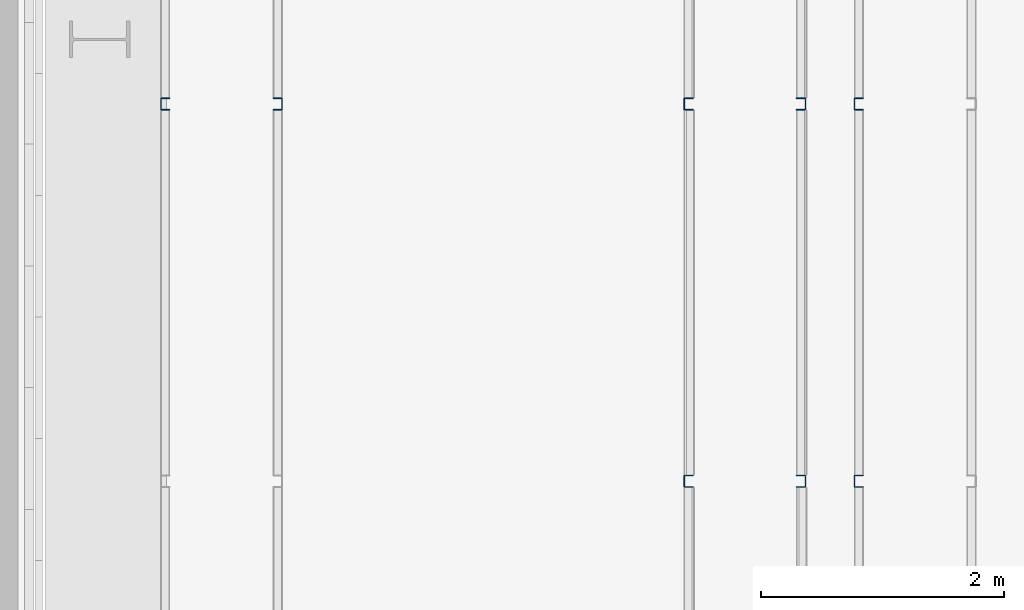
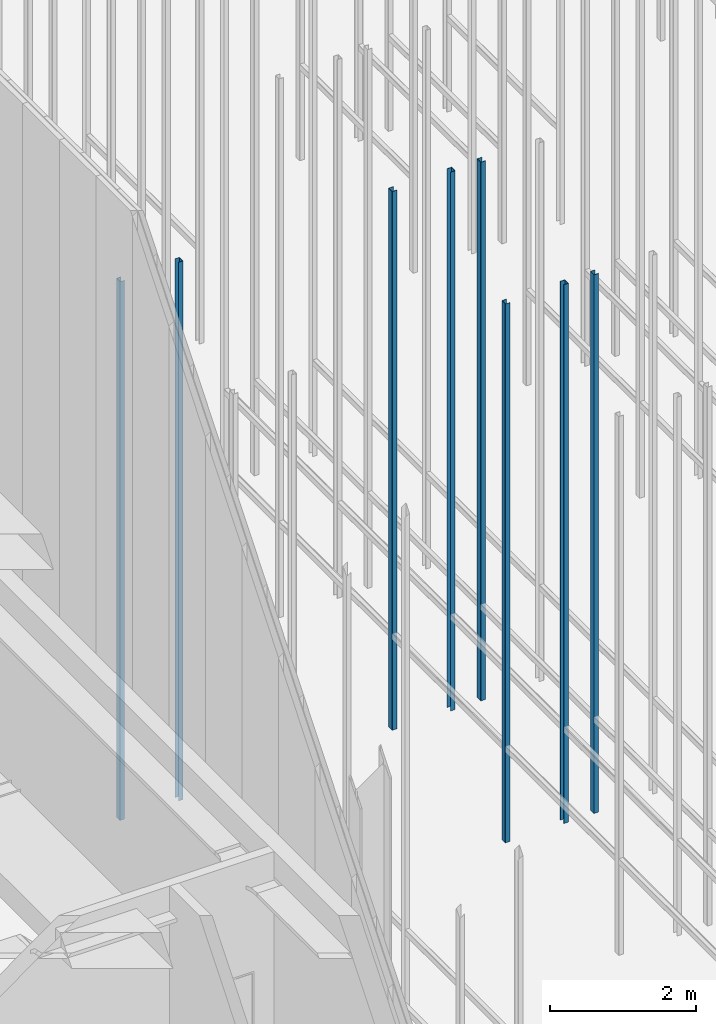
# One storey, part 18 of 302: 8 columns.
"""IFC2X3 building model written with IfcOpenShell, lengths in metres."""

from ifc_helpers import new_model, entity, si_unit, converted_unit, derived_unit, direction, frame, frame_2d, origin, place, context, subcontext, project, spatial, polyline, circle_curve, parameter, trimmed, segment, composite_curve, outline, extrude, source, transform, mapped, material, type_object, type_shapes, element, save


model = new_model("IFC2X3")

# Units and contexts
model_context = context("Model", 3, precision=1e-05, world=origin(), true_north=direction((6.12303176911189e-17, 1.0)))
body_context = subcontext(model_context, "Body", "Model", "MODEL_VIEW")
ifc_project = project(units=[si_unit("LENGTHUNIT", "METRE"), si_unit("AREAUNIT", "SQUARE_METRE"), si_unit("VOLUMEUNIT", "CUBIC_METRE"), converted_unit("PLANEANGLEUNIT", "DEGREE", entity("IfcRatioMeasure", 0.0174532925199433), si_unit("PLANEANGLEUNIT", "RADIAN"), dimensions=[0, 0, 0, 0, 0, 0, 0]), si_unit("MASSUNIT", "GRAM", prefix="KILO"), derived_unit("MASSDENSITYUNIT", [(si_unit("MASSUNIT", "GRAM", prefix="KILO"), 1), (si_unit("LENGTHUNIT", "METRE"), -3)]), derived_unit("MOMENTOFINERTIAUNIT", [(si_unit("LENGTHUNIT", "METRE"), 4)]), si_unit("TIMEUNIT", "SECOND"), si_unit("FREQUENCYUNIT", "HERTZ"), si_unit("THERMODYNAMICTEMPERATUREUNIT", "DEGREE_CELSIUS"), derived_unit("THERMALTRANSMITTANCEUNIT", [(si_unit("MASSUNIT", "GRAM", prefix="KILO"), 1), (si_unit("THERMODYNAMICTEMPERATUREUNIT", "KELVIN"), -1), (si_unit("TIMEUNIT", "SECOND"), -3)]), derived_unit("VOLUMETRICFLOWRATEUNIT", [(si_unit("LENGTHUNIT", "METRE"), 3), (si_unit("TIMEUNIT", "SECOND"), -1)]), si_unit("ELECTRICCURRENTUNIT", "AMPERE"), si_unit("ELECTRICVOLTAGEUNIT", "VOLT"), si_unit("POWERUNIT", "WATT"), si_unit("FORCEUNIT", "NEWTON", prefix="KILO"), si_unit("ILLUMINANCEUNIT", "LUX"), si_unit("LUMINOUSFLUXUNIT", "LUMEN"), si_unit("LUMINOUSINTENSITYUNIT", "CANDELA"), derived_unit("USERDEFINED", [(si_unit("MASSUNIT", "GRAM", prefix="KILO"), -1), (si_unit("LENGTHUNIT", "METRE"), -2), (si_unit("TIMEUNIT", "SECOND"), 3), (si_unit("LUMINOUSFLUXUNIT", "LUMEN"), 1)]), derived_unit("LINEARVELOCITYUNIT", [(si_unit("LENGTHUNIT", "METRE"), 1), (si_unit("TIMEUNIT", "SECOND"), -1)]), si_unit("PRESSUREUNIT", "PASCAL"), derived_unit("USERDEFINED", [(si_unit("LENGTHUNIT", "METRE"), -2), (si_unit("MASSUNIT", "GRAM", prefix="KILO"), 1), (si_unit("TIMEUNIT", "SECOND"), -2)]), derived_unit("LINEARFORCEUNIT", [(si_unit("MASSUNIT", "GRAM", prefix="KILO"), 1), (si_unit("LENGTHUNIT", "METRE"), 1), (si_unit("TIMEUNIT", "SECOND"), -2), (si_unit("LENGTHUNIT", "METRE"), -1)]), derived_unit("PLANARFORCEUNIT", [(si_unit("MASSUNIT", "GRAM", prefix="KILO"), 1), (si_unit("LENGTHUNIT", "METRE"), 1), (si_unit("TIMEUNIT", "SECOND"), -2), (si_unit("LENGTHUNIT", "METRE"), -2)])], contexts=[model_context])

# Site, building, storey
site_placement = place(None, origin())
site = spatial("IfcSite", under=ifc_project, at=site_placement, Name="Default", CompositionType="ELEMENT")
building_placement = place(site_placement, origin())
building = spatial("IfcBuilding", under=site, at=building_placement, CompositionType="ELEMENT")
storey_placement = place(building_placement, frame((0.0, 0.0, -1.3)))
storey = spatial("IfcBuildingStorey", under=building, at=storey_placement, Name="00_EG", CompositionType="ELEMENT", Elevation=-1.3)

# Columns
ifc_material = material(Name="Metall - Baustahl S235")
column_type_1 = type_object("IfcColumnType", Name="Leichter Stahl Schlossschrauben Stütze:C 100", PredefinedType="COLUMN", material=ifc_material)
shared_shape_1 = source(origin(), body_context, "Body", "SweptSolid", [
    extrude(outline(composite_curve([segment(polyline([(-0.0469749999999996, -0.0499999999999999), (0.0214500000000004, -0.0499999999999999)]), True, "CONTINUOUS"), segment(trimmed(circle_curve(frame_2d((0.0214500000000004, -0.0434249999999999), x_axis=(0.0, -1.0)), 0.00657500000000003), [parameter(0.0)], [parameter(89.9999999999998)], True, "PARAMETER"), True, "CONTINUOUS"), segment(polyline([(0.0280250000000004, -0.0434249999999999), (0.0280250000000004, 0.0434250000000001)]), True, "CONTINUOUS"), segment(trimmed(circle_curve(frame_2d((0.0214500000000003, 0.0434250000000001), x_axis=(1.0, 0.0)), 0.0065750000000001), [parameter(0.0)], [parameter(89.9999999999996)], True, "PARAMETER"), True, "CONTINUOUS"), segment(polyline([(0.0214500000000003, 0.0500000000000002), (-0.0469750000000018, 0.0500000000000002)]), True, "CONTINUOUS"), segment(polyline([(-0.0469750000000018, 0.0500000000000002), (-0.0469750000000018, 0.0450000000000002)]), True, "CONTINUOUS"), segment(polyline([(-0.0469750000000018, 0.0450000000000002), (0.0214500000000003, 0.0450000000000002)]), True, "CONTINUOUS"), segment(trimmed(circle_curve(frame_2d((0.0214500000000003, 0.0434249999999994), x_axis=(0.0, 1.0)), 0.00157500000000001), [parameter(269.999999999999)], [parameter(0.0)], True, "PARAMETER"), False, "CONTINUOUS"), segment(polyline([(0.0230250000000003, 0.0434249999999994), (0.0230250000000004, -0.0434249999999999)]), True, "CONTINUOUS"), segment(trimmed(circle_curve(frame_2d((0.0214500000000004, -0.0434249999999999), x_axis=(1.0, 0.0)), 0.00157500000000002), [parameter(270.0)], [parameter(0.0)], True, "PARAMETER"), False, "CONTINUOUS"), segment(polyline([(0.0214500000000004, -0.0449999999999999), (-0.0469749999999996, -0.0449999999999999)]), True, "CONTINUOUS"), segment(polyline([(-0.0469749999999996, -0.0449999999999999), (-0.0469749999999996, -0.0499999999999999)]), True, "CONTINUOUS")], self_intersect=False)), frame((0.0499999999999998, 0.0280250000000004, -0.0300000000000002), z_axis=(0.0, 0.0, 1.0), x_axis=(0.0, -1.0, 0.0)), (0.0, 0.0, 1.0), 9.0),
])
type_shapes(column_type_1, [shared_shape_1])
for number, where, z_axis, x_axis in (
    (1, (-200.790111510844, 36.448088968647, 1.3), (0.0, 0.0, 1.0), (0.0, -1.0, 0.0)),
    (2, (-200.790111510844, 39.548088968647, 1.3), (0.0, 0.0, 1.0), (0.0, -1.0, 0.0)),
    (3, (-202.190111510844, 36.448088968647, 1.3), (0.0, 0.0, 1.0), (0.0, -1.0, 0.0)),
    (4, (-202.190111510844, 39.548088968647, 1.3), (0.0, 0.0, 1.0), (0.0, -1.0, 0.0)),
    (5, (-206.490111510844, 39.548088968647, 1.3), (0.0, 0.0, 1.0), (0.0, -1.0, 0.0)),
):
    element("IfcColumn", number, at=place(storey_placement, frame(where, z_axis=z_axis, x_axis=x_axis)), inside=storey, type_object=column_type_1, material=ifc_material, Name="Leichter Stahl Schlossschrauben Stütze:C 100", ObjectType="Leichter Stahl Schlossschrauben Stütze:C 100", context=body_context, shape_type="MappedRepresentation", body=[
        mapped(shared_shape_1, transform((0.0, 0.0, 0.0), scale=1.0)),
    ])
column_type_2 = type_object("IfcColumnType", Name="Leichter Stahl Schlossschrauben Stütze:C 100", PredefinedType="COLUMN", material=ifc_material)
shared_shape_2 = source(origin(), body_context, "Body", "SweptSolid", [
    extrude(outline(composite_curve([segment(polyline([(-0.0214500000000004, -0.0499999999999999), (0.0469749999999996, -0.0499999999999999)]), True, "CONTINUOUS"), segment(polyline([(0.0469749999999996, -0.0499999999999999), (0.0469749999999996, -0.0449999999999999)]), True, "CONTINUOUS"), segment(polyline([(0.0469749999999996, -0.0449999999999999), (-0.0214500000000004, -0.045)]), True, "CONTINUOUS"), segment(trimmed(circle_curve(frame_2d((-0.0214500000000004, -0.043425), x_axis=(0.0, -1.0)), 0.00157500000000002), [parameter(270.0)], [parameter(0.0)], True, "PARAMETER"), False, "CONTINUOUS"), segment(polyline([(-0.0230250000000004, -0.0434249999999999), (-0.0230250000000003, 0.0434249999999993)]), True, "CONTINUOUS"), segment(trimmed(circle_curve(frame_2d((-0.0214500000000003, 0.0434249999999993), x_axis=(-1.0, 0.0)), 0.00157500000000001), [parameter(269.999999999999)], [parameter(0.0)], True, "PARAMETER"), False, "CONTINUOUS"), segment(polyline([(-0.0214500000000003, 0.0450000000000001), (0.0469750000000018, 0.0450000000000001)]), True, "CONTINUOUS"), segment(polyline([(0.0469750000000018, 0.0450000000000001), (0.0469750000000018, 0.0500000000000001)]), True, "CONTINUOUS"), segment(polyline([(0.0469750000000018, 0.0500000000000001), (-0.0214500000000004, 0.0500000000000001)]), True, "CONTINUOUS"), segment(trimmed(circle_curve(frame_2d((-0.0214500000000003, 0.043425), x_axis=(0.0, 1.0)), 0.0065750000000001), [parameter(0.0)], [parameter(89.9999999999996)], True, "PARAMETER"), True, "CONTINUOUS"), segment(polyline([(-0.0280250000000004, 0.043425), (-0.0280250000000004, -0.043425)]), True, "CONTINUOUS"), segment(trimmed(circle_curve(frame_2d((-0.0214500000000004, -0.0434249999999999), x_axis=(-1.0, 0.0)), 0.00657500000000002), [parameter(0.0)], [parameter(89.9999999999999)], True, "PARAMETER"), True, "CONTINUOUS")], self_intersect=False)), frame((0.0499999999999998, -0.0280250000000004, -0.0300000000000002), z_axis=(0.0, 0.0, 1.0), x_axis=(0.0, -1.0, 0.0)), (0.0, 0.0, 1.0), 9.0),
])
type_shapes(column_type_2, [shared_shape_2])
for number, where, z_axis, x_axis in (
    (6, (-201.190111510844, 36.448088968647, 1.3), (0.0, 0.0, 1.0), (0.0, -1.0, 0.0)),
    (7, (-201.190111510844, 39.548088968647, 1.3), (0.0, 0.0, 1.0), (0.0, -1.0, 0.0)),
    (8, (-205.490111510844, 39.548088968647, 1.3), (0.0, 0.0, 1.0), (0.0, -1.0, 0.0)),
):
    element("IfcColumn", number, at=place(storey_placement, frame(where, z_axis=z_axis, x_axis=x_axis)), inside=storey, type_object=column_type_2, material=ifc_material, Name="Leichter Stahl Schlossschrauben Stütze:C 100", ObjectType="Leichter Stahl Schlossschrauben Stütze:C 100", context=body_context, shape_type="MappedRepresentation", body=[
        mapped(shared_shape_2, transform((0.0, 0.0, 0.0), scale=1.0)),
    ])

save(model, "model.ifc")
